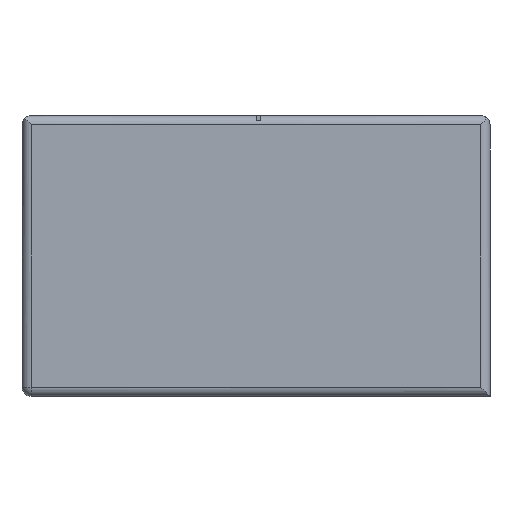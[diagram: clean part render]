
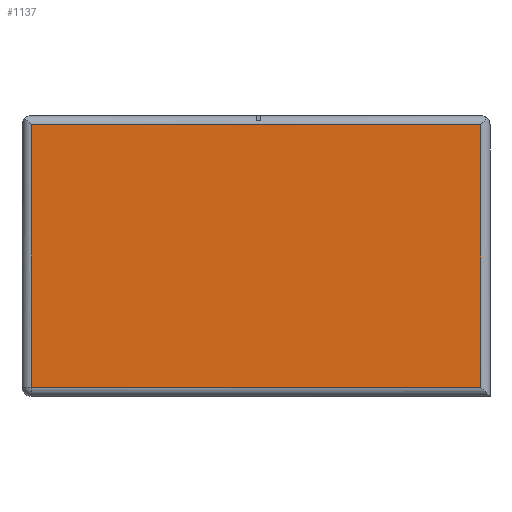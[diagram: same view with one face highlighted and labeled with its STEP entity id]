
A CAD part, front view. The second image highlights one B-rep face of the part: STEP entity #1137.
In plain terms, the highlighted planar face has unit normal (0, -1, 0).
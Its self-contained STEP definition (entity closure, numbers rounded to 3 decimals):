
#31 = LINE ( 'NONE', #1039, #1555 ) ;
#66 = LINE ( 'NONE', #500, #1491 ) ;
#78 = DIRECTION ( 'NONE',  ( 0., 1., 0. ) ) ;
#186 = EDGE_CURVE ( 'NONE', #1000, #1148, #31, .T. ) ;
#306 = DIRECTION ( 'NONE',  ( 0., 0., 1. ) ) ;
#349 = EDGE_CURVE ( 'NONE', #1148, #722, #359, .T. ) ;
#359 = LINE ( 'NONE', #1469, #1442 ) ;
#500 = CARTESIAN_POINT ( 'NONE',  ( 4.8, -15., 6. ) ) ;
#533 = FACE_OUTER_BOUND ( 'NONE', #814, .T. ) ;
#585 = LINE ( 'NONE', #1527, #977 ) ;
#590 = VERTEX_POINT ( 'NONE', #1537 ) ;
#605 = DIRECTION ( 'NONE',  ( 0., 0., 1. ) ) ;
#658 = CARTESIAN_POINT ( 'NONE',  ( -5., -15., 6. ) ) ;
#679 = CARTESIAN_POINT ( 'NONE',  ( -4.8, -15., 5.8 ) ) ;
#722 = VERTEX_POINT ( 'NONE', #1422 ) ;
#765 = CARTESIAN_POINT ( 'NONE',  ( 4.8, -15., 5.8 ) ) ;
#796 = DIRECTION ( 'NONE',  ( 1., 0., 0. ) ) ;
#814 = EDGE_LOOP ( 'NONE', ( #867, #820, #1224, #1451 ) ) ;
#820 = ORIENTED_EDGE ( 'NONE', *, *, #1189, .T. ) ;
#867 = ORIENTED_EDGE ( 'NONE', *, *, #349, .T. ) ;
#872 = EDGE_CURVE ( 'NONE', #590, #1000, #66, .T. ) ;
#904 = PLANE ( 'NONE',  #1116 ) ;
#977 = VECTOR ( 'NONE', #796, 1000. ) ;
#1000 = VERTEX_POINT ( 'NONE', #765 ) ;
#1039 = CARTESIAN_POINT ( 'NONE',  ( -5., -15., 5.8 ) ) ;
#1116 = AXIS2_PLACEMENT_3D ( 'NONE', #658, #78, #306 ) ;
#1137 = ADVANCED_FACE ( 'NONE', ( #533 ), #904, .F. ) ;
#1148 = VERTEX_POINT ( 'NONE', #679 ) ;
#1164 = DIRECTION ( 'NONE',  ( -1., 0., 0. ) ) ;
#1189 = EDGE_CURVE ( 'NONE', #722, #590, #585, .T. ) ;
#1224 = ORIENTED_EDGE ( 'NONE', *, *, #872, .T. ) ;
#1345 = DIRECTION ( 'NONE',  ( 0., 0., -1. ) ) ;
#1422 = CARTESIAN_POINT ( 'NONE',  ( -4.8, -15., 0.2 ) ) ;
#1442 = VECTOR ( 'NONE', #1345, 1000. ) ;
#1451 = ORIENTED_EDGE ( 'NONE', *, *, #186, .T. ) ;
#1469 = CARTESIAN_POINT ( 'NONE',  ( -4.8, -15., 6. ) ) ;
#1491 = VECTOR ( 'NONE', #605, 1000. ) ;
#1527 = CARTESIAN_POINT ( 'NONE',  ( 5., -15., 0.2 ) ) ;
#1537 = CARTESIAN_POINT ( 'NONE',  ( 4.8, -15., 0.2 ) ) ;
#1555 = VECTOR ( 'NONE', #1164, 1000. ) ;
